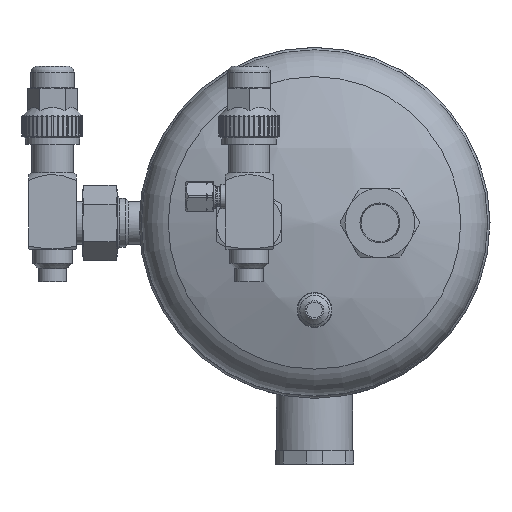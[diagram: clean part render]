
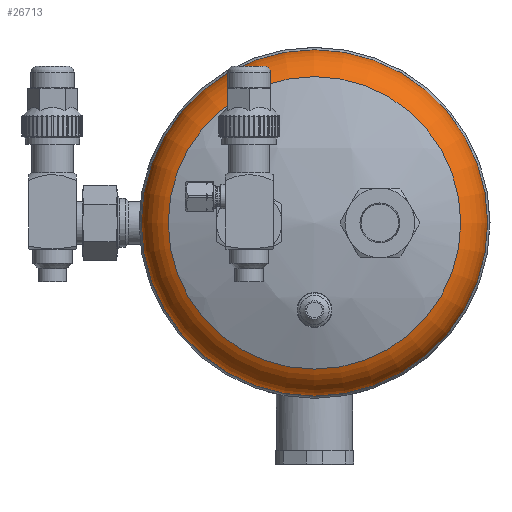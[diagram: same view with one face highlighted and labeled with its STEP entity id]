
A CAD part, front view. The second image highlights one B-rep face of the part: STEP entity #26713.
In plain terms, the highlighted toroidal (fillet/blend) face has major radius 58.6 mm and minor radius 20.9 mm.
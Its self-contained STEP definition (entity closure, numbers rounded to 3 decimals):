
#1617=FACE_BOUND('',#5594,.T.);
#1728=TOROIDAL_SURFACE('',#28748,58.6,20.9);
#2430=CIRCLE('',#28747,79.5);
#2431=CIRCLE('',#28749,67.159);
#3911=FACE_OUTER_BOUND('',#5593,.T.);
#5593=EDGE_LOOP('',(#22625));
#5594=EDGE_LOOP('',(#22626));
#12042=VERTEX_POINT('',#53333);
#12043=VERTEX_POINT('',#53336);
#15681=EDGE_CURVE('',#12042,#12042,#2430,.T.);
#15682=EDGE_CURVE('',#12043,#12043,#2431,.T.);
#22625=ORIENTED_EDGE('',*,*,#15682,.F.);
#22626=ORIENTED_EDGE('',*,*,#15681,.T.);
#26713=ADVANCED_FACE('',(#3911,#1617),#1728,.T.);
#28747=AXIS2_PLACEMENT_3D('',#53334,#34136,#34137);
#28748=AXIS2_PLACEMENT_3D('',#53335,#34138,#34139);
#28749=AXIS2_PLACEMENT_3D('',#53337,#34140,#34141);
#34136=DIRECTION('center_axis',(0.,-1.,0.));
#34137=DIRECTION('ref_axis',(-1.,0.,0.));
#34138=DIRECTION('center_axis',(0.,-1.,0.));
#34139=DIRECTION('ref_axis',(0.,0.,
-1.));
#34140=DIRECTION('center_axis',(0.,-1.,0.));
#34141=DIRECTION('ref_axis',(-1.,0.,0.));
#53333=CARTESIAN_POINT('',(-79.5,-296.563,0.));
#53334=CARTESIAN_POINT('Origin',(0.,-296.563,
0.));
#53335=CARTESIAN_POINT('Origin',(0.,-296.563,
0.));
#53336=CARTESIAN_POINT('',(-67.159,-315.63,0.));
#53337=CARTESIAN_POINT('Origin',(0.,-315.63,
0.));
